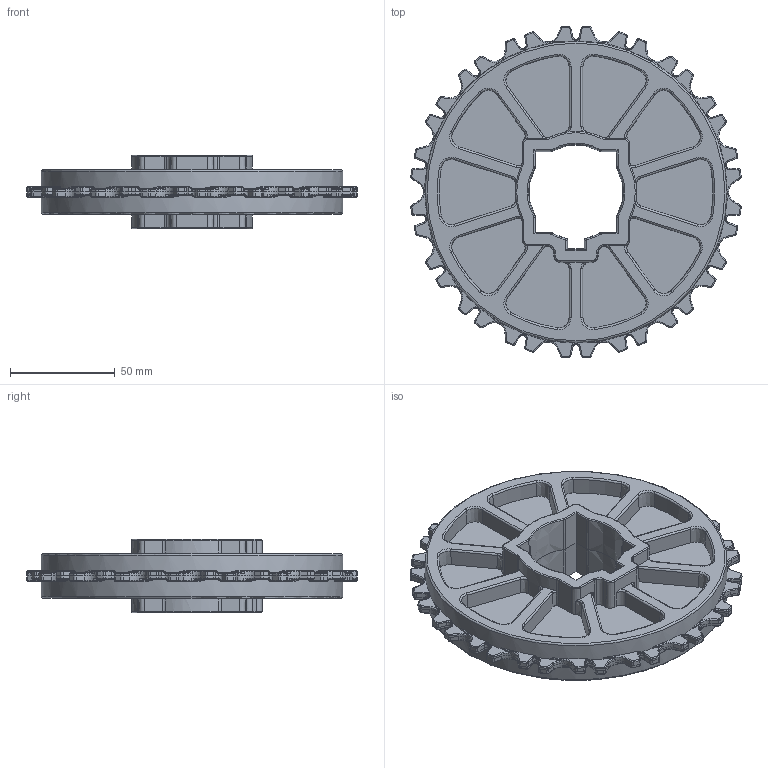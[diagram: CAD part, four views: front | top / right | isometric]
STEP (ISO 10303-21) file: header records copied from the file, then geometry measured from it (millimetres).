
FILE_DESCRIPTION(/* description */ (''),/* implementation_level */ '2;1');
FILE_NAME(/* name */ 'HS-700-18T.stp',/* time_stamp */ '2022-06-28T08:23:54+08:00',/* author */ (''),/* organization */ (''),/* preprocessor_version */ 'ST-DEVELOPER v15',/* originating_system */ 'SIEMENS PLM Software NX 8.5',/* authorisation */ '');
FILE_SCHEMA (('AP203_CONFIGURATION_CONTROLLED_3D_DESIGN_OF_MECHANICAL_PARTS_AND_ASSEMBLIES_MIM_LF { 1 0 10303 403 2 1 2}'));
Products named in the file (1): Admi2654BA8D5uus
Bounding box: 157.66 x 157.8 x 35 mm (x, y, z)
Volume: 196970 mm3; surface area: 69569.7 mm2
Topology: 1 solids, 1 shells, 2388 faces, 5750 edges, 3418 vertices
Faces by surface type: plane 718, bspline 700, cylinder 412, torus 230, cone 198, extrusion 130
Entity records: 110991 total; most frequent: CARTESIAN_POINT 45048, ORIENTED_EDGE 11484, DIRECTION 8284, EDGE_CURVE 5742, VERTEX_POINT 3414, AXIS2_PLACEMENT_3D 3062, EDGE_LOOP 2448, PRESENTATION_STYLE_ASSIGNMENT 2389
